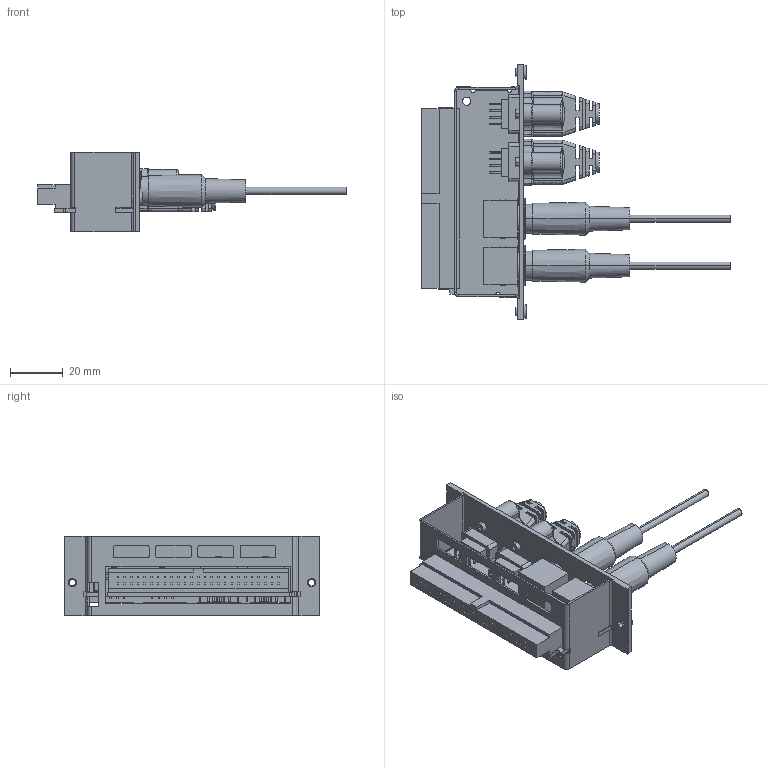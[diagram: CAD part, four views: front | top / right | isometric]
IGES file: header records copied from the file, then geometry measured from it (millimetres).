
Start section:  PTC IGES file: cu_scxi-1362_adapter.igs
Global section: file name: cu_scxi-1362_adapter.igs; native system: Pro/ENGINEER by Parametric Technology Corporation; preprocessor: 2010230; author: jjorden; organization: Unknown; date: 20110815.163411; units: inch
Bounding box: 117.04 x 96.79 x 30.18 mm (x, y, z)
Surface area: 30512.6 mm2 (no closed solid volume)
Topology: 0 solids, 0 shells, 1323 faces, 6886 edges, 6882 vertices
Faces by surface type: bspline 1044, revolution 279
